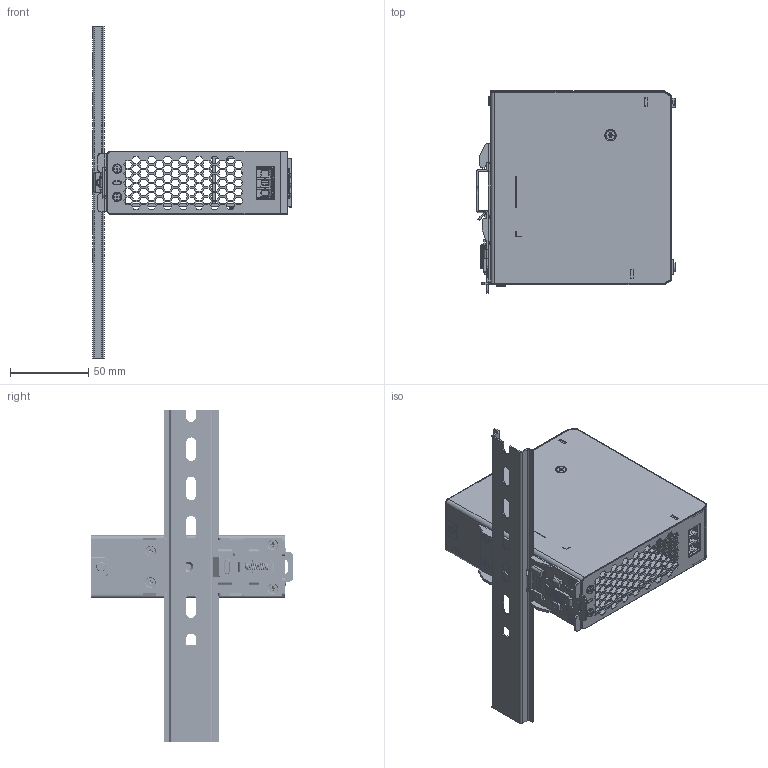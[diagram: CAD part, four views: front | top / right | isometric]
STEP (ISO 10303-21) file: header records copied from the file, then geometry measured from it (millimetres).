
FILE_DESCRIPTION((''),'2;1');
FILE_NAME('DRM-24V120W1PN_ASM_359_ASM','2015-12-21T',('LEON.YEH'),(''),'PRO/ENGINEER BY PARAMETRIC TECHNOLOGY CORPORATION, 2010280','PRO/ENGINEER BY PARAMETRIC TECHNOLOGY CORPORATION, 2010280','');
FILE_SCHEMA(('CONFIG_CONTROL_DESIGN'));
Products named in the file (35): MANIFOLD_SOLID_BREP_10531_AF0; MANIFOLD_SOLID_BREP_10925; 330322440000_CASE-CHASSIS_1_AF0_ASM; 331676930000_CASE_COVER_77_AF0; BMB420-508MA02_7_1; BMB420U103_2_1; BMB420P201_1_1; ASSEM1_ASM_6_ASM_1_ASM; BMB420-508MA02_7_1_AF0; BMB420U103_2_1_AF0; BMB420U103_2_1_AF1; BMB420P201_1_1_AF0; BMB420P201_1_1_AF1; ASSEM1_ASM_6_ASM_1_AF0_ASM; MB420-508MA02_ASM_4_ASM_1_AF0_ASM; MB420-508MA02_ASM_4_ASM_AF0_ASM; MANIFOLD_SOLID_BREP_262416_AF0; MANIFOLD_SOLID_BREP_262609; MH150-635M804A302_A4_AF0_6_AF0_ASM; MAIN_BOARD; DAUG_INPUT; DAUG_OUTPUT; HSK3; HS1; INSULATOR_COVER; INSULATOR_CHASSIS; INSULATOR_FRONT; 346654410101_17; 346008810000_2; 346202620000_1; ASSY_BASE_NEW_V2_ASM_10_ASM; 3100000600-1_10; 3105039100_2; RAIL; DRM-24V120W1PN_ASM_359_ASM
Assembly tree (44 placements, depth 5):
  DRM-24V120W1PN_ASM_359_ASM
    330322440000_CASE-CHASSIS_1_AF0_ASM
      MANIFOLD_SOLID_BREP_10531_AF0
      MANIFOLD_SOLID_BREP_10925
    331676930000_CASE_COVER_77_AF0
    MB420-508MA02_ASM_4_ASM_AF0_ASM
      MB420-508MA02_ASM_4_ASM_1_AF0_ASM
        ASSEM1_ASM_6_ASM_1_ASM  x2
          BMB420-508MA02_7_1
          BMB420U103_2_1
          BMB420P201_1_1
        ASSEM1_ASM_6_ASM_1_AF0_ASM
          BMB420-508MA02_7_1_AF0
          BMB420U103_2_1_AF0
          BMB420U103_2_1_AF1
          BMB420P201_1_1_AF0
          BMB420P201_1_1_AF1
    MH150-635M804A302_A4_AF0_6_AF0_ASM
      MANIFOLD_SOLID_BREP_262416_AF0
      MANIFOLD_SOLID_BREP_262609
    MAIN_BOARD
    DAUG_INPUT
    DAUG_OUTPUT
    HSK3
    HS1
    INSULATOR_COVER
    INSULATOR_CHASSIS
    INSULATOR_FRONT
    ASSY_BASE_NEW_V2_ASM_10_ASM
      346654410101_17
      346008810000_2
      346202620000_1
    3100000600-1_10  x6
    3105039100_2  x3
    RAIL
Bounding box: 126.7 x 128.8 x 211.6 mm (x, y, z)
Volume: 121215.9 mm3; surface area: 235724 mm2
Topology: 43 solids, 43 shells, 5545 faces, 15312 edges, 9964 vertices
Faces by surface type: plane 3789, cylinder 981, extrusion 405, bspline 180, torus 116, cone 74
Entity records: 161567 total; most frequent: CARTESIAN_POINT 50094, ORIENTED_EDGE 24074, DIRECTION 20740, EDGE_CURVE 12037, VECTOR 9814, LINE 9544, VERTEX_POINT 7896, AXIS2_PLACEMENT_3D 5463
